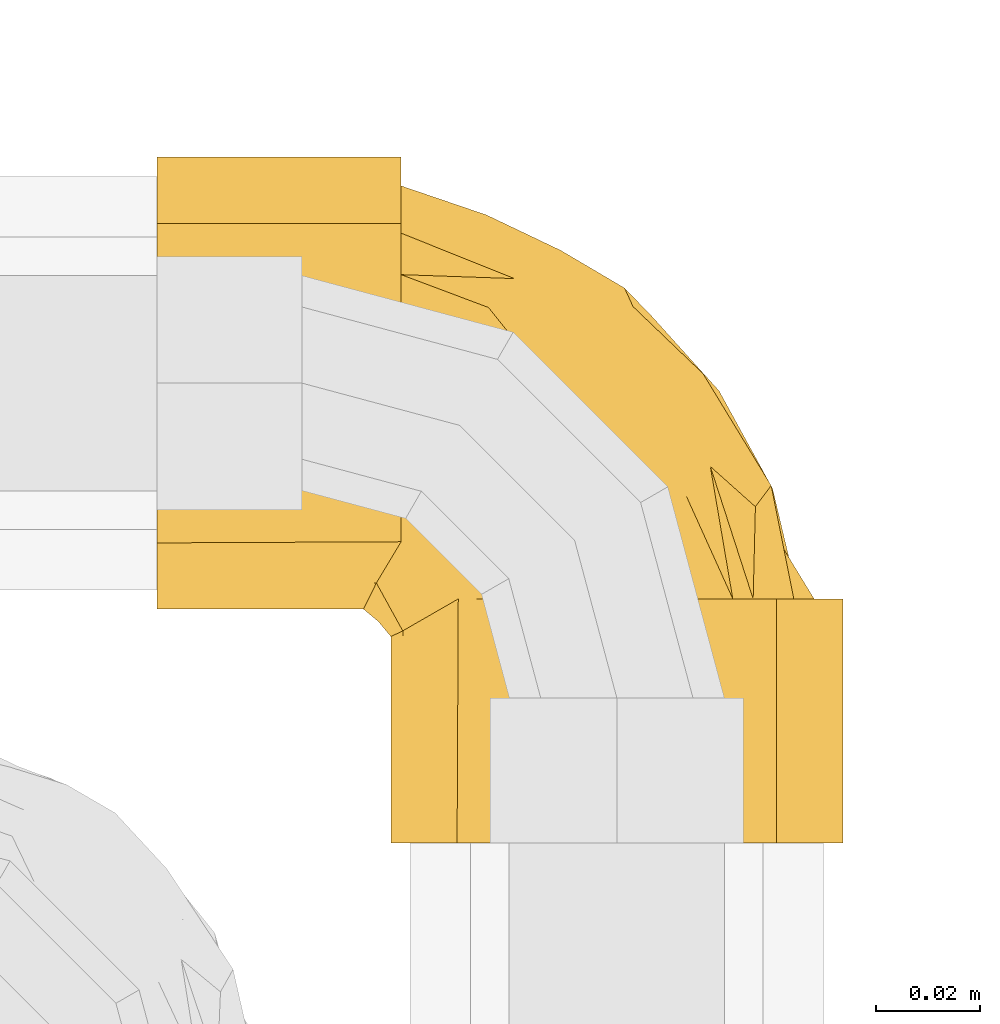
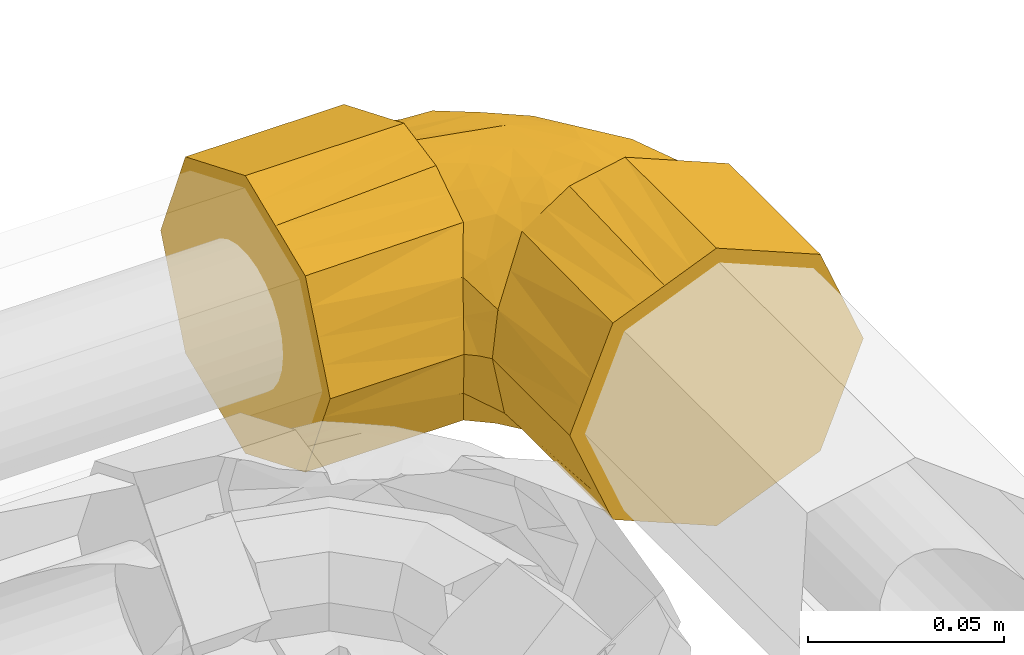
# One storey, part 263 of 652: 1 covering.
"""IFC2X3 building model written with IfcOpenShell, lengths in millimetres."""

from ifc_helpers import new_model, entity, si_unit, converted_unit, direction, frame, origin, place, context, subcontext, project, spatial, faceted_brep, material, type_object, element, save


model = new_model("IFC2X3")

# Units and contexts
model_context = context("Model", 3, precision=0.01, world=frame((0.0, 0.0, 308426.39999999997)), true_north=direction((6.123233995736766e-17, 1.0)))
plan_context = context("Plan", 3, precision=0.01, world=frame((0.0, 0.0, 308426.39999999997)), true_north=direction((6.123233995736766e-17, 1.0)))
body_context = subcontext(model_context, "Body", "Model", "MODEL_VIEW")
ifc_project = project(units=[si_unit("LENGTHUNIT", "METRE", prefix="MILLI"), si_unit("AREAUNIT", "SQUARE_METRE"), si_unit("VOLUMEUNIT", "CUBIC_METRE"), converted_unit("PLANEANGLEUNIT", "DEGREE", entity("IfcPlaneAngleMeasure", 0.017453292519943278), si_unit("PLANEANGLEUNIT", "RADIAN"), dimensions=[0, 0, 0, 0, 0, 0, 0])], contexts=[model_context, plan_context])

# Site, building, storey
site_placement = place(None, origin())
site = spatial("IfcSite", under=ifc_project, at=site_placement, Name="Default", CompositionType="ELEMENT")
building_placement = place(site_placement, origin())
building = spatial("IfcBuilding", under=site, at=building_placement, CompositionType="ELEMENT")
storey_placement = place(building_placement, frame((0.0, 0.0, 1730.6999999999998)))
storey = spatial("IfcBuildingStorey", under=building, at=storey_placement, Name="EG_Produktion_FFB", CompositionType="ELEMENT", Elevation=1730.6999999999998)

# Covering
ifc_material = material(Name="Dämmung - Armaflex-Schlauch")
covering_type = type_object("IfcCoveringType", Name="Rohrdämmung außen:Armaflex-Schlauch", PredefinedType="INSULATION")
covering_placement = place(storey_placement, frame((76891.88225000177, 61011.88224999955, 3944.909272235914)))
element("IfcCovering", 1, at=covering_placement, inside=storey, type_object=covering_type, material=ifc_material, Name="Rohrdämmung außen:Armaflex-Schlauch", ObjectType="Rohrdämmung außen:Armaflex-Schlauch", PredefinedType="INSULATION", context=body_context, shape_type="Brep", body=[
    faceted_brep([(88.11775000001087, 46.752250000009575, -88.22327223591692), (79.90226074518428, 46.752250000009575, -86.60452029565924), (71.68677149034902, 46.752250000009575, -84.98576835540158), (64.70149861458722, 46.752250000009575, -80.37355282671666), (57.71622573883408, 46.752250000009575, -75.76133729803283), (66.55955447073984, 46.752250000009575, -79.62862730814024), (75.40288320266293, 46.752250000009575, -83.49591731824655), (85.04966346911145, 46.752250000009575, -84.5467722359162), (92.72698145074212, 46.752250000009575, -81.01733375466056), (100.40429943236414, 46.752250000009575, -77.48789527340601), (108.63450810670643, 46.752250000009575, -73.7042803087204), (116.86471678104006, 46.752250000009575, -69.92066534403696), (120.01964159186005, 46.752250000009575, -61.21969689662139), (122.97667814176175, 46.752250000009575, -53.064484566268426), (125.93371469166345, 46.752250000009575, -44.909272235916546), (122.035771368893, 46.75225000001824, -37.09633037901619), (118.13782804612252, 46.752250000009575, -29.283388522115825), (114.2398847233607, 46.752250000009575, -21.470446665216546), (110.34194140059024, 46.752250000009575, -13.657504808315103), (101.29094031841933, 46.752250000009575, -10.656617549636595), (93.17030189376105, 46.752250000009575, -7.964194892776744), (85.04966346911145, 46.752250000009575, -5.271772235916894), (81.34938260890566, 46.75225000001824, -6.070267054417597), (77.64910174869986, 46.752250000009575, -6.868761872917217), (71.91234130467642, 46.752250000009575, -8.106714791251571), (66.17558086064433, 46.752250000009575, -9.344667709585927), (57.71622573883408, 46.752250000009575, -14.05720717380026), (64.70149861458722, 46.752250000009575, -9.44499164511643), (71.68677149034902, 46.752250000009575, -4.832776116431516), (79.06082116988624, 46.752250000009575, -3.379818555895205), (88.11775000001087, 46.752250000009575, -1.5952722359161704), (96.48128679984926, 46.75225000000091, -5.059562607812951), (103.43156156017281, 46.752250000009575, -7.938460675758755), (111.08846734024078, 46.75225000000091, -11.11005489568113), (118.74537312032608, 46.752250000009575, -14.281649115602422), (121.9169673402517, 46.752250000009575, -21.93855489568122), (125.08856156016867, 46.752250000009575, -29.595460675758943), (127.96746015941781, 46.75225000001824, -36.54573671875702), (131.43175000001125, 46.752250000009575, -44.909272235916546), (127.9674596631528, 46.752250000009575, -53.27280895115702), (125.08856156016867, 46.752250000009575, -60.22308379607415), (121.91696734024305, 46.752250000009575, -67.87998957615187), (118.74537312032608, 46.752250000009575, -75.53689535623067), (111.08846734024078, 46.752250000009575, -78.70848957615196), (103.43156156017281, 46.752250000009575, -81.88008379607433), (96.4812854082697, 46.752250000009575, -84.7589824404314), (131.43175000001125, 0.0, -44.909272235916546), (128.2601557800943, 0.0, -37.252366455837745), (125.08856156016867, 0.0, -29.595460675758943), (121.91696734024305, 0.0, -21.93855489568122), (118.74537312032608, 0.0, -14.281649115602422), (111.79509868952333, 0.0, -11.402751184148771), (104.84482425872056, 0.0, -8.523853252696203), (96.48128712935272, 0.0, -5.059562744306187), (88.11775000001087, 0.0, -1.5952722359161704), (80.46084421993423, 0.0, -4.766866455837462), (72.80393843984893, 0.0, -7.938460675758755), (65.14703265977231, 0.0, -11.110054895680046), (57.490126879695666, 0.0, -14.281649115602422), (54.318532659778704, 0.0, -21.93855489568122), (51.14693843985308, 0.0, -29.595460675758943), (47.97534421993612, 0.0, -37.252366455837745), (44.803750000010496, 0.0, -44.909272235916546), (48.26803976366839, 0.0, -53.27280756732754), (51.14693843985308, 0.0, -60.22308379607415), (54.318532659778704, 0.0, -67.87998957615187), (57.490126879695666, 0.0, -75.53689535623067), (65.14703265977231, 0.0, -78.70848957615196), (72.80393843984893, 0.0, -81.88008379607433), (80.46084421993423, 0.0, -85.05167801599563), (88.11775000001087, 0.0, -88.22327223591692), (95.77465578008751, 0.0, -85.05167801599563), (103.43156156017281, 0.0, -81.88008379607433), (111.08846734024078, 0.0, -78.70848957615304), (118.74537312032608, 0.0, -75.53689535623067), (121.91696734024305, 0.0, -67.87998957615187), (125.08856156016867, 0.0, -60.22308379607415), (128.2601557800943, 0.0, -52.56617801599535), (47.07645465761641, 40.63540735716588, -31.06316546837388), (46.390187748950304, 40.303936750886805, -35.24414202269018), (44.803750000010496, 39.53767878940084, -44.909272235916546), (52.396340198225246, 43.693828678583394, -22.56018632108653), (47.307090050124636, 40.778822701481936, -55.01684165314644), (49.810430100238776, 42.01996661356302, -65.12441107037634), (53.763327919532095, 44.38610830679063, -70.44287418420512), (46.752250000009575, 88.11775000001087, -88.22327223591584), (46.75225000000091, 96.48128620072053, -84.7589821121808), (46.752250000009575, 104.84482240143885, -81.29469198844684), (46.752250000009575, 111.79509776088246, -78.41579367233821), (46.752250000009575, 118.74537312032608, -75.53689535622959), (46.752250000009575, 121.91696734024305, -67.87998957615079), (46.752250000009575, 125.08856156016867, -60.22308379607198), (46.752250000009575, 127.96746022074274, -53.272807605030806), (46.752250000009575, 131.43175000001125, -44.909272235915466), (46.752250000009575, 127.96745974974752, -36.54573572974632), (46.752250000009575, 125.08856156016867, -29.595460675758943), (46.752250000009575, 121.91696734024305, -21.93855489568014), (46.752250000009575, 118.74537312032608, -14.281649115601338), (46.752250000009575, 111.08846734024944, -11.110054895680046), (46.752250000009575, 103.43156156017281, -7.938460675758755), (46.75225000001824, 96.48128586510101, -5.059562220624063), (46.752250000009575, 88.11775000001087, -1.5952722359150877), (46.75225000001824, 79.06082006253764, -3.3798187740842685), (46.752250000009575, 71.68677149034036, -4.832776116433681), (46.752250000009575, 64.70149861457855, -9.444991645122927), (46.752250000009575, 57.71622573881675, -14.057207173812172), (46.75225000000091, 66.55955447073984, -10.189917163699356), (46.752250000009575, 75.40288320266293, -6.3226271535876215), (46.752250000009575, 85.0496634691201, -5.271772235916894), (46.752250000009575, 93.00342679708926, -8.928298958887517), (46.75225000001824, 100.95719012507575, -12.584825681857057), (46.752250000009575, 108.91095345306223, -16.241352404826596), (46.752250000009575, 116.86471678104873, -19.897879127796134), (46.752250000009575, 121.39921573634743, -32.40357568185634), (46.75225000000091, 122.976677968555, -36.754059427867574), (46.752250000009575, 125.93371469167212, -44.909272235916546), (46.752250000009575, 122.035771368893, -52.722214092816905), (46.752250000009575, 118.13782804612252, -60.535155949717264), (46.752250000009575, 114.2398847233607, -68.34809780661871), (46.752250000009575, 110.3419414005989, -76.16103966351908), (46.752250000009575, 97.69580243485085, -80.35390594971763), (46.752250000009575, 85.0496634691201, -84.5467722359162), (46.752250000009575, 81.34938217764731, -83.74827732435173), (46.752250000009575, 77.64910088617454, -82.94978241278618), (46.752250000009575, 71.91234087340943, -81.71182958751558), (46.752250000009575, 66.17558086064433, -80.47387676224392), (46.752250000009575, 57.716225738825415, -75.76133729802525), (46.752250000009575, 64.70149861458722, -80.37355282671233), (46.752250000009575, 71.68677149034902, -84.98576835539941), (46.75225000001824, 79.06082129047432, -86.43872593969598), (0.0, 44.803750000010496, -44.909272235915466), (0.0, 48.26803976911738, -36.54573689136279), (0.0, 51.14693843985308, -29.595460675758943), (0.0, 54.318532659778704, -21.93855489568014), (0.0, 57.490126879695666, -14.281649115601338), (0.0, 65.14703265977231, -11.110054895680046), (0.0, 72.80393843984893, -7.938460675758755), (0.0, 80.46084421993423, -4.76686645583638), (0.0, 88.11775000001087, -1.5952722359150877), (0.0, 95.77465578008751, -4.766866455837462), (0.0, 103.43156156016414, -7.938460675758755), (0.0, 111.08846734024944, -11.110054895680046), (0.0, 118.74537312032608, -14.281649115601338), (0.0, 121.62427109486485, -21.23192365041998), (0.0, 124.50316906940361, -28.182198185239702), (0.0, 127.96745953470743, -36.54573521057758), (0.0, 131.43175000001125, -44.909272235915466), (0.0, 128.2601557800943, -52.56617801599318), (0.0, 125.08856156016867, -60.22308379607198), (0.0, 121.91696734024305, -67.87998957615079), (0.0, 118.74537312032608, -75.53689535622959), (0.0, 111.08846734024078, -78.70848957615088), (0.0, 103.43156156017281, -81.88008379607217), (0.0, 95.77465578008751, -85.05167801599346), (0.0, 88.11775000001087, -88.22327223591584), (0.0, 80.46084421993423, -85.05167801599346), (0.0, 72.80393843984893, -81.88008379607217), (0.0, 65.14703265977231, -78.70848957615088), (0.0, 57.490126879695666, -75.53689535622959), (0.0, 54.31853265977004, -67.87998957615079), (0.0, 51.14693843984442, -60.22308379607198), (0.0, 47.97534421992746, -52.56617801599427), (39.53767878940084, 44.803750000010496, -44.909272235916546), (40.778822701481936, 47.307090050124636, -34.801702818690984), (42.01996661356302, 49.810430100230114, -24.6941334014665), (44.38610830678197, 53.763327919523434, -19.375670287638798), (40.63540735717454, 47.07645465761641, -58.75537900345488), (40.303936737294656, 46.39018772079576, -54.574402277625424), (43.69382867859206, 52.396340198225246, -67.25835815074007), (88.73429544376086, 74.01999786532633, -8.725361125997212), (71.80233442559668, 92.2525032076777, -9.463919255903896), (72.73171129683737, 79.88012577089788, -6.190713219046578), (101.46918686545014, 66.38050195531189, -12.527264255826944), (106.10858534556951, 81.39388521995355, -25.55863499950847), (104.62433945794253, 89.94328275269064, -35.536590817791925), (94.19573320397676, 96.00570682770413, -26.09588238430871), (86.62214195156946, 91.23223447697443, -15.174603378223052), (114.6682496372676, 64.42758016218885, -24.48702608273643), (85.54000769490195, 64.65714810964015, -6.1294935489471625), (77.34212049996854, 113.56925852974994, -36.56453509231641), (63.10883867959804, 120.355997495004, -36.60747455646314), (65.48441634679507, 117.26951448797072, -30.129712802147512), (117.68107501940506, 68.47941466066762, -34.91108025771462), (106.03030708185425, 72.14375295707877, -18.57361946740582), (76.51750923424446, 63.332343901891, -5.271772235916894), (68.47704441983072, 108.15356104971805, -18.72944517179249), (63.4953426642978, 102.62059617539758, -12.344103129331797), (116.84576107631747, 61.65182754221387, -44.909272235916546), (91.22297922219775, 102.77672050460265, -33.32054441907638), (89.58190023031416, 106.35056016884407, -44.909272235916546), (68.1670751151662, 116.14213743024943, -44.909272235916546), (64.60703401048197, 117.76990778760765, -44.909272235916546), (107.75780746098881, 76.55140508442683, -44.909272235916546), (96.83815184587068, 87.27700719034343, -19.992770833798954), (98.66985384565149, 91.45098262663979, -44.909272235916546), (79.91196653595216, 108.0485537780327, -27.04750515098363), (84.11181017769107, 99.90633679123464, -20.450199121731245), (53.17889625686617, 80.36065574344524, -5.271772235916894), (59.60554251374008, 75.67164801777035, -5.271772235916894), (61.63487961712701, 74.1910036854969, -5.271772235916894), (68.0615258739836, 69.50199595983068, -5.271772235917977), (80.78358635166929, 55.04229695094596, -5.271772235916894), (83.20747781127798, 50.33207408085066, -5.271772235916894), (69.0467012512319, 56.26094341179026, -6.60293056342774), (54.5562667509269, 54.556266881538, -12.248448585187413), (61.11186851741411, 53.210297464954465, -9.802068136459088), (62.40913681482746, 60.665580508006, -7.317776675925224), (42.409159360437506, 42.409159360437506, -44.909272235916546), (48.01851651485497, 48.46855326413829, -20.699108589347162), (55.418288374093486, 70.60278023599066, -6.392719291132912), (54.000773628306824, 62.687122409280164, -8.946882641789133), (60.14265850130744, 66.58610433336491, -6.5015033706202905), (70.80808668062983, 55.273856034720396, -83.44870733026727), (81.36529215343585, 53.91189816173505, -84.5467722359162), (48.46855326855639, 48.01851602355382, -69.11943544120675), (54.52623050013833, 54.52623062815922, -77.54084580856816), (58.74435758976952, 62.42306103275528, -82.04384465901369), (62.718384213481, 54.56229555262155, -81.03832580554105), (67.2071630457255, 62.60173052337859, -83.78700892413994), (63.60418390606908, 67.34789404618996, -83.93264694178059), (49.96557312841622, 82.70515960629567, -84.5467722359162), (53.17889625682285, 80.36065574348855, -84.5467722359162), (59.60554251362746, 75.67164801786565, -84.54677223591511), (68.06152587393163, 69.50199595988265, -84.5467722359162), (56.15572771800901, 70.02439853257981, -83.40694394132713), (76.51750923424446, 63.332343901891, -84.5467722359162), (61.63487961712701, 74.1910036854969, -84.5467722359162), (110.4895373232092, 61.51531506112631, -71.9349550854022), (102.01509896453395, 64.015852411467, -77.69345816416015), (101.62783839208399, 76.32579608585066, -72.91689334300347), (65.19910851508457, 89.04415059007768, -82.85383626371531), (107.69923858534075, 86.64351262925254, -52.36213425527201), (95.0571033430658, 91.47388821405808, -67.8575344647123), (112.39514387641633, 69.77767080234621, -65.0551644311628), (92.18182718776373, 66.67052170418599, -81.63721611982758), (87.21494597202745, 61.92968916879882, -83.68517128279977), (64.70970163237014, 106.72241601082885, -74.09084162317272), (84.6921417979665, 93.3320570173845, -74.4003048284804), (65.71529073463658, 99.1733978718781, -78.82291109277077), (78.62112142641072, 74.75379021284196, -83.53620477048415), (81.21836113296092, 84.37906523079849, -80.46753636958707), (75.81996252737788, 113.46460816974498, -56.499519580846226), (94.93182715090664, 100.8009470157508, -52.633119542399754), (88.21869424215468, 103.97247135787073, -59.31665528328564), (117.95353214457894, 67.93556611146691, -54.80835259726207), (75.0385844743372, 106.99731105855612, -68.41532002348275), (100.5844841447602, 92.12128292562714, -59.54913999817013)], [[[0, 1, 2, 3, 4, 5, 6, 7, 8, 9, 10, 11, 12, 13, 14, 15, 16, 17, 18, 19, 20, 21, 22, 23, 24, 25, 26, 27, 28, 29, 30, 31, 32, 33, 34, 35, 36, 37, 38, 39, 40, 41, 42, 43, 44, 45]], [[46, 47, 48, 49, 50, 51, 52, 53, 54, 55, 56, 57, 58, 59, 60, 61, 62, 63, 64, 65, 66, 67, 68, 69, 70, 71, 72, 73, 74, 75, 76, 77]], [[26, 58, 57]], [[27, 26, 57]], [[61, 78, 79, 80]], [[30, 29, 55]], [[78, 60, 81]], [[29, 56, 55]], [[56, 28, 27]], [[30, 55, 54]], [[56, 27, 57]], [[56, 29, 28]], [[61, 80, 62]], [[58, 81, 60, 59]], [[61, 60, 78]], [[58, 26, 81]], [[31, 30, 54, 53, 52, 51, 50, 34, 33, 32]], [[34, 50, 49, 48, 47, 46, 38, 37, 36, 35]], [[0, 45, 44, 43, 42, 74, 73, 72, 71, 70]], [[76, 75, 74, 42, 41, 40, 39, 38, 46, 77]], [[70, 1, 0]], [[3, 2, 68]], [[82, 64, 63]], [[4, 67, 66]], [[3, 68, 67]], [[65, 83, 84, 4]], [[64, 82, 83]], [[68, 2, 69]], [[1, 70, 69]], [[63, 80, 82]], [[69, 2, 1]], [[67, 4, 3]], [[63, 62, 80]], [[65, 4, 66]], [[65, 64, 83]], [[85, 86, 87, 88, 89, 90, 91, 92, 93, 94, 95, 96, 97, 98, 99, 100, 101, 102, 103, 104, 105, 106, 107, 108, 109, 110, 111, 112, 113, 114, 115, 116, 117, 118, 119, 120, 121, 122, 123, 124, 125, 126, 127, 128, 129]], [[130, 131, 132, 133, 134, 135, 136, 137, 138, 139, 140, 141, 142, 143, 144, 145, 146, 147, 148, 149, 150, 151, 152, 153, 154, 155, 156, 157, 158, 159, 160, 161]], [[144, 143, 142, 97, 96, 95, 94, 93, 146, 145]], [[97, 142, 141, 140, 139, 138, 101, 100, 99, 98]], [[136, 102, 137]], [[105, 135, 134]], [[131, 130, 162]], [[101, 137, 102]], [[104, 136, 135]], [[104, 103, 136]], [[132, 163, 164]], [[163, 132, 131]], [[133, 164, 165, 105]], [[131, 162, 163]], [[101, 138, 137]], [[135, 105, 104]], [[102, 136, 103]], [[133, 105, 134]], [[133, 132, 164]], [[161, 162, 130]], [[85, 129, 155]], [[161, 166, 167, 162]], [[156, 128, 127]], [[166, 160, 168]], [[129, 156, 155]], [[157, 156, 127]], [[85, 155, 154]], [[158, 168, 160, 159]], [[156, 129, 128]], [[161, 160, 166]], [[158, 126, 168]], [[126, 157, 127]], [[126, 158, 157]], [[150, 89, 88, 87, 86, 85, 154, 153, 152, 151]], [[89, 150, 149, 148, 147, 146, 93, 92, 91, 90]], [[169, 170, 171]], [[19, 172, 169]], [[173, 174, 175]], [[176, 170, 169]], [[17, 16, 177]], [[21, 20, 178]], [[179, 180, 181]], [[182, 177, 16]], [[178, 20, 169]], [[19, 18, 172]], [[18, 17, 183]], [[20, 19, 169]], [[184, 178, 171]], [[185, 186, 176]], [[176, 169, 172]], [[176, 172, 183]], [[15, 187, 182]], [[183, 17, 177]], [[186, 111, 110]], [[175, 174, 188]], [[179, 189, 190, 191]], [[182, 173, 177]], [[183, 177, 173]], [[182, 16, 15]], [[173, 182, 174]], [[182, 192, 174]], [[173, 175, 193]], [[183, 172, 18]], [[188, 194, 189]], [[189, 179, 188]], [[185, 195, 181]], [[109, 170, 110]], [[185, 112, 111]], [[170, 186, 110]], [[196, 185, 176]], [[170, 109, 171]], [[171, 108, 197, 198, 199, 200, 184]], [[176, 186, 170]], [[185, 111, 186]], [[179, 181, 195]], [[108, 171, 109]], [[185, 181, 112]], [[181, 180, 113]], [[188, 179, 195]], [[188, 195, 175]], [[174, 194, 188]], [[196, 195, 185]], [[196, 176, 193]], [[115, 114, 113, 180]], [[112, 181, 113]], [[179, 191, 180]], [[115, 180, 191]], [[171, 178, 169]], [[174, 192, 194]], [[178, 184, 201, 202, 21]], [[187, 15, 14]], [[187, 192, 182]], [[193, 176, 183]], [[195, 196, 175]], [[173, 193, 183]], [[175, 196, 193]], [[203, 25, 24]], [[204, 26, 205]], [[206, 205, 203]], [[207, 80, 79]], [[203, 200, 206]], [[208, 165, 164]], [[78, 164, 163]], [[209, 107, 106]], [[204, 205, 206]], [[204, 210, 105]], [[107, 198, 197, 108]], [[210, 204, 206]], [[210, 209, 106]], [[79, 163, 207]], [[163, 79, 78]], [[207, 163, 162]], [[209, 210, 211]], [[198, 209, 211]], [[204, 165, 208]], [[78, 81, 26, 208]], [[105, 210, 106]], [[210, 206, 211]], [[208, 26, 204]], [[107, 209, 198]], [[204, 105, 165]], [[78, 208, 164]], [[26, 25, 205]], [[203, 205, 25]], [[202, 201, 24, 23, 22, 21]], [[200, 203, 184]], [[201, 203, 24]], [[203, 201, 184]], [[206, 200, 211]], [[211, 200, 199, 198]], [[207, 82, 80]], [[212, 213, 6]], [[84, 214, 215]], [[125, 216, 126]], [[7, 6, 213]], [[4, 217, 5]], [[218, 217, 216]], [[216, 217, 215]], [[167, 166, 82]], [[216, 215, 126]], [[166, 83, 82]], [[219, 218, 216]], [[215, 217, 4]], [[84, 83, 214]], [[122, 121, 220, 221, 222, 124, 123]], [[207, 162, 167]], [[218, 219, 223]], [[125, 224, 216]], [[6, 5, 212]], [[167, 82, 207]], [[166, 168, 126, 214]], [[218, 212, 217]], [[215, 4, 84]], [[214, 126, 215]], [[166, 214, 83]], [[223, 225, 218]], [[212, 218, 225]], [[212, 225, 213]], [[217, 212, 5]], [[216, 224, 219]], [[222, 224, 124]], [[219, 222, 226, 223]], [[224, 125, 124]], [[222, 219, 224]], [[227, 228, 229]], [[230, 121, 120]], [[194, 192, 231]], [[232, 233, 229]], [[234, 8, 235]], [[236, 237, 238]], [[9, 228, 10]], [[234, 235, 239]], [[240, 234, 239]], [[119, 236, 238]], [[241, 242, 243]], [[235, 7, 213, 225]], [[227, 11, 10]], [[9, 8, 234]], [[12, 233, 244]], [[227, 233, 11]], [[230, 226, 222, 221, 220, 121]], [[238, 237, 240]], [[241, 117, 116]], [[239, 230, 240]], [[239, 226, 230]], [[240, 230, 238]], [[238, 230, 120]], [[120, 119, 238]], [[118, 245, 236]], [[241, 245, 117]], [[237, 232, 229]], [[245, 243, 232]], [[229, 240, 237]], [[187, 13, 244]], [[233, 12, 11]], [[194, 231, 242]], [[246, 244, 233]], [[244, 192, 187]], [[239, 225, 223, 226]], [[228, 240, 229]], [[9, 234, 228]], [[240, 228, 234]], [[231, 244, 246]], [[194, 242, 189]], [[245, 232, 237]], [[233, 232, 246]], [[228, 227, 10]], [[233, 227, 229]], [[116, 190, 241]], [[190, 189, 241]], [[116, 115, 191, 190]], [[244, 231, 192]], [[231, 246, 242]], [[243, 242, 246]], [[241, 189, 242]], [[232, 243, 246]], [[245, 241, 243]], [[7, 235, 8]], [[225, 239, 235]], [[118, 117, 245]], [[237, 236, 245]], [[236, 119, 118]], [[13, 187, 14]], [[13, 12, 244]]]),
])

save(model, "model.ifc")
